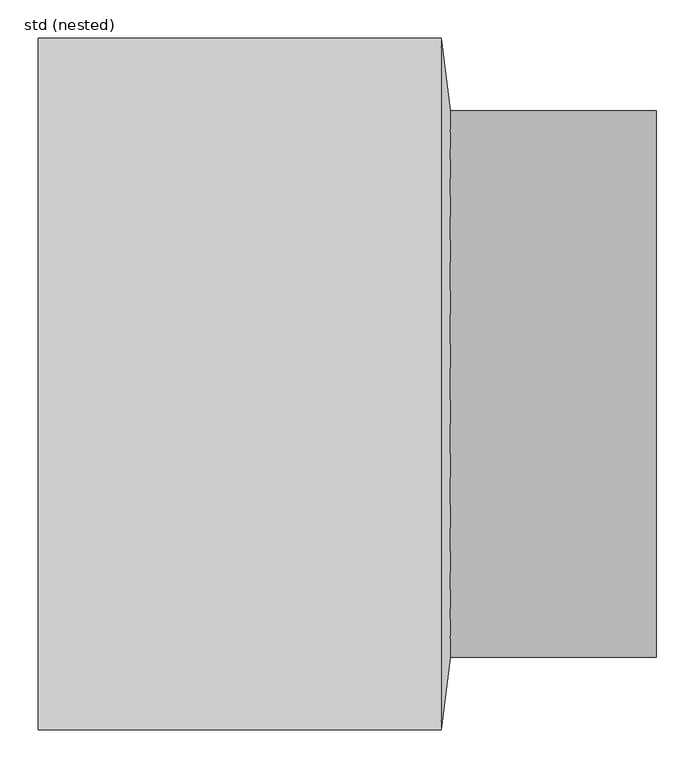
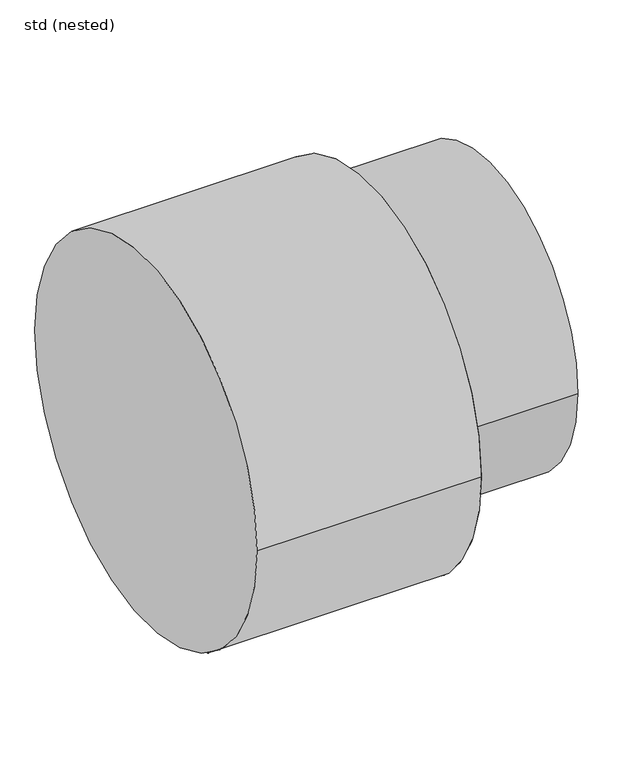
"""IFC4 building model written with IfcOpenShell, lengths in millimetres: pipe fitting geometry, NLRS_52_PIF_WPB_Ultra Kyma verloop MV SH_Dyka : std (nested)."""

import ifcopenshell
import ifcopenshell.guid

model = None  # the IFC model being written
_history = None  # IfcOwnerHistory: only IFC2X3 demands one
_inside = {}  # id of a spatial element -> (the spatial element, [elements in it])
_under = {}  # id of a project, library or spatial element -> (it, [spatial elements below it])
_declared = {}  # id of a project -> (the project, [libraries it declares])
_typed = {}  # id of a type object -> (the type object, [elements of that type])
_made_of = {}  # id of a material, layer set ... -> (it, [elements and type objects made of it])


def new_model(schema):
    """Start an empty IFC model of exactly this schema.

    Asked for "IFC4X3", IfcOpenShell would pick the latest addendum, in which some entities
    have other attributes; the version numbers below select the first issue.
    IFC2X3 requires an IfcOwnerHistory on every rooted entity: one is made here for all.
    """
    global model, _history
    if schema == "IFC4X3":
        model = ifcopenshell.file(schema_version=(4, 3, 0, 0))
    else:
        model = ifcopenshell.file(schema=schema)
    _inside.clear()
    _under.clear()
    _declared.clear()
    _typed.clear()
    _made_of.clear()
    _history = None
    if model.schema == "IFC2X3":
        org = make("IfcOrganization", Name="unknown")
        user = make(
            "IfcPersonAndOrganization",
            ThePerson=make("IfcPerson", FamilyName="unknown"),
            TheOrganization=org,
        )
        app = make(
            "IfcApplication",
            ApplicationDeveloper=org,
            Version="unknown",
            ApplicationFullName="unknown",
            ApplicationIdentifier="unknown",
        )
        _history = make(
            "IfcOwnerHistory",
            OwningUser=user,
            OwningApplication=app,
            ChangeAction="ADDED",
            CreationDate=0,
        )
    return model


def make(cls, **values):
    """One entity of the class cls with the attributes given. An attribute that is None is left unset."""
    return model.create_entity(
        cls, **{name: value for name, value in values.items() if value is not None}
    )


def rooted(cls, **values):
    """An entity with a GlobalId (a new one), such as an element, a storey or a relation."""
    return make(cls, GlobalId=ifcopenshell.guid.new(), OwnerHistory=_history, **values)


def si_unit(unit_type, name, prefix=None):
    """IfcSIUnit, for example si_unit("LENGTHUNIT", "METRE", prefix="MILLI")."""
    return make("IfcSIUnit", UnitType=unit_type, Prefix=prefix, Name=name)


def assignment(units):
    """IfcUnitAssignment: the units of a project."""
    return None if units is None else make("IfcUnitAssignment", Units=units)


def point(xyz):
    """IfcCartesianPoint."""
    return None if xyz is None else make("IfcCartesianPoint", Coordinates=xyz)


def direction(xyz):
    """IfcDirection."""
    return None if xyz is None else make("IfcDirection", DirectionRatios=xyz)


def frame(location, z_axis=None, x_axis=None):
    """IfcAxis2Placement3D, a coordinate frame: its origin and axes. An axis left out is left unset."""
    return make(
        "IfcAxis2Placement3D",
        Location=point(location),
        Axis=direction(z_axis),
        RefDirection=direction(x_axis),
    )


def frame_2d(location, x_axis=None):
    """IfcAxis2Placement2D, a coordinate frame in the plane: its origin and x axis."""
    return make(
        "IfcAxis2Placement2D", Location=point(location), RefDirection=direction(x_axis)
    )


def origin():
    """The frame at (0, 0, 0) with its axes left unset."""
    return frame((0.0, 0.0, 0.0))


def origin_2d():
    """The frame at (0, 0) in the plane with its x axis left unset."""
    return frame_2d((0.0, 0.0))


def place(relative_to, where):
    """IfcLocalPlacement: puts the frame where relative to a parent placement (None: the world)."""
    return make(
        "IfcLocalPlacement", PlacementRelTo=relative_to, RelativePlacement=where
    )


def context(
    kind, dimensions, precision=None, world=None, true_north=None, identifier=None
):
    """IfcGeometricRepresentationContext, for example the 3D "Model" context."""
    return make(
        "IfcGeometricRepresentationContext",
        ContextIdentifier=identifier,
        ContextType=kind,
        CoordinateSpaceDimension=dimensions,
        Precision=precision,
        WorldCoordinateSystem=world,
        TrueNorth=true_north,
    )


def project(units=None, contexts=None):
    """IfcProject with its units and contexts."""
    return rooted(
        "IfcProject",
        Name="project",
        RepresentationContexts=contexts,
        UnitsInContext=assignment(units),
    )


def spatial(cls, under=None, at=None, **own):
    """A site, building, storey or space (cls), placed at a placement, below another one or the project."""
    s = rooted(cls, ObjectPlacement=at, **own)
    if under is not None:
        _under.setdefault(under.id(), (under, []))[1].append(s)
    return s


def circle_curve(where, radius):
    """IfcCircle in the frame where."""
    return make("IfcCircle", Position=where, Radius=radius)


def trimmed(basis, trim1, trim2, sense, master):
    """IfcTrimmedCurve: the piece of a basis curve between two trims."""
    return make(
        "IfcTrimmedCurve",
        BasisCurve=basis,
        Trim1=trim1,
        Trim2=trim2,
        SenseAgreement=sense,
        MasterRepresentation=master,
    )


def segment(curve, same_sense, transition):
    """IfcCompositeCurveSegment."""
    return make(
        "IfcCompositeCurveSegment",
        Transition=transition,
        SameSense=same_sense,
        ParentCurve=curve,
    )


def composite_curve(segments, self_intersect=None):
    """IfcCompositeCurve: segments joined end to end."""
    return make("IfcCompositeCurve", Segments=segments, SelfIntersect=self_intersect)


def outline(outer, holes=None, kind="AREA"):
    """IfcArbitraryClosedProfileDef: a profile drawn as a closed curve; with holes, ...WithVoids."""
    if holes is None:
        return make("IfcArbitraryClosedProfileDef", ProfileType=kind, OuterCurve=outer)
    return make(
        "IfcArbitraryProfileDefWithVoids",
        ProfileType=kind,
        OuterCurve=outer,
        InnerCurves=holes,
    )


def extrude(swept, where, along, depth):
    """IfcExtrudedAreaSolid: the profile swept, set in the frame where, extruded along a direction by depth."""
    return make(
        "IfcExtrudedAreaSolid",
        SweptArea=swept,
        Position=where,
        ExtrudedDirection=direction(along),
        Depth=depth,
    )


def shape(context_of_items, identifier, shape_type, items):
    """IfcShapeRepresentation: the items that make up one representation, for example the "Body"."""
    return make(
        "IfcShapeRepresentation",
        ContextOfItems=context_of_items,
        RepresentationIdentifier=identifier,
        RepresentationType=shape_type,
        Items=items,
    )


def source(mapping_origin, context_of_items, identifier, shape_type, items):
    """IfcRepresentationMap: a shape defined once, which mapped items show again and again."""
    return make(
        "IfcRepresentationMap",
        MappingOrigin=mapping_origin,
        MappedRepresentation=shape(context_of_items, identifier, shape_type, items),
    )


def transform(
    local_origin,
    x_axis=None,
    y_axis=None,
    z_axis=None,
    scale=None,
    scale2=None,
    scale3=None,
    uniform=True,
):
    """IfcCartesianTransformationOperator3D, or its non-uniform kind. x_axis, y_axis, z_axis: its Axis1, 2, 3."""
    if uniform:
        return make(
            "IfcCartesianTransformationOperator3D",
            Axis1=direction(x_axis),
            Axis2=direction(y_axis),
            LocalOrigin=point(local_origin),
            Scale=scale,
            Axis3=direction(z_axis),
        )
    return make(
        "IfcCartesianTransformationOperator3DnonUniform",
        Axis1=direction(x_axis),
        Axis2=direction(y_axis),
        LocalOrigin=point(local_origin),
        Scale=scale,
        Axis3=direction(z_axis),
        Scale2=scale2,
        Scale3=scale3,
    )


def mapped(mapping_source, mapping_target):
    """IfcMappedItem: shows the shape of a source again, moved by a transform."""
    return make(
        "IfcMappedItem", MappingSource=mapping_source, MappingTarget=mapping_target
    )


def made_of(thing, what):
    """Note that an element or type object is made of a material, layer set ...; save() writes the relation."""
    if what is not None:
        _made_of.setdefault(what.id(), (what, []))[1].append(thing)
    return thing


def element(
    cls,
    number,
    at=None,
    inside=None,
    cuts=None,
    type_object=None,
    material=None,
    context=None,
    identifier="Body",
    shape_type=None,
    held_by="IfcProductDefinitionShape",
    body=None,
    shapes=None,
    **own,
):
    """One element of the class cls, such as IfcWall. Its Tag is "e" and its number.

    at: its placement. inside: the storey or other place that contains it. cuts: it is an
    opening in that element (IfcRelVoidsElement). A single representation is given by context,
    identifier, shape_type and body (its items); several are given by shapes. held_by: the class
    of the entity that holds the representations. save() writes the other relations.
    """
    e = rooted(cls, Tag="e%d" % number, ObjectPlacement=at, **own)
    if body is not None:
        shapes = [shape(context, identifier, shape_type, body)]
    if shapes is not None:
        e.Representation = make(held_by, Representations=shapes)
    if inside is not None:
        _inside.setdefault(inside.id(), (inside, []))[1].append(e)
    if cuts is not None:
        rooted(
            "IfcRelVoidsElement", RelatingBuildingElement=cuts, RelatedOpeningElement=e
        )
    if type_object is not None:
        _typed.setdefault(type_object.id(), (type_object, []))[1].append(e)
    return made_of(e, material)


def aggregate(whole, parts):
    """IfcRelAggregates: a whole, such as a stair, and the parts it consists of."""
    return rooted("IfcRelAggregates", RelatingObject=whole, RelatedObjects=parts)


def save(model, path):
    """Write the relations noted so far, then the file.

    IfcRelAggregates (storeys below a building ...), IfcRelContainedInSpatialStructure (elements
    in a storey), IfcRelDefinesByType, IfcRelAssociatesMaterial and IfcRelDeclares: one each for
    every whole, place, type object, material and project.
    """
    for whole, parts in _under.values():
        aggregate(whole, parts)
    for where, things in _inside.values():
        rooted(
            "IfcRelContainedInSpatialStructure",
            RelatedElements=things,
            RelatingStructure=where,
        )
    for kind, things in _typed.values():
        rooted("IfcRelDefinesByType", RelatedObjects=things, RelatingType=kind)
    for what, things in _made_of.values():
        rooted("IfcRelAssociatesMaterial", RelatedObjects=things, RelatingMaterial=what)
    for by, libraries in _declared.values():
        rooted("IfcRelDeclares", RelatingContext=by, RelatedDefinitions=libraries)
    model.write(path)


def plane_surface(at):
    """IfcPlane: the flat surface through the origin of the frame at, square to its z axis."""
    return make("IfcPlane", Position=at)


def spline_surface(u_degree, v_degree, points, u_multiplicities, v_multiplicities, u_knots, v_knots, weights=None):
    """IfcBSplineSurfaceWithKnots; with weights, IfcRationalBSplineSurfaceWithKnots. points: one row for each step in u."""
    own = dict(
        UDegree=u_degree,
        VDegree=v_degree,
        ControlPointsList=[[point(p) for p in row] for row in points],
        SurfaceForm="UNSPECIFIED",
        UClosed=False,
        VClosed=False,
        SelfIntersect=False,
        UMultiplicities=u_multiplicities,
        VMultiplicities=v_multiplicities,
        UKnots=u_knots,
        VKnots=v_knots,
        KnotSpec="UNSPECIFIED",
    )
    if weights is None:
        return make("IfcBSplineSurfaceWithKnots", **own)
    return make("IfcRationalBSplineSurfaceWithKnots", WeightsData=weights, **own)


def advanced_brep(points, edges, surfaces, faces):
    """IfcAdvancedBrep: a solid bounded by faces that lie on surfaces and meet in shared edges.

    An edge is (start, end): straight between two places in points (the first is 0);
    or (start, end, curve); or (start, end, curve, False) where it runs against its curve.
    A face is (place in surfaces, loops), or (place, loops, False) where it looks against
    its surface's normal. A loop lists edges by number (the first is 1), with a minus sign
    where the edge is run from its end to its start. The first loop is the outer one.
    """
    corners = [point(p) for p in points]
    vertices = [make("IfcVertexPoint", VertexGeometry=c) for c in corners]
    made = []
    for start, end, *more in edges:
        made.append(
            make(
                "IfcEdgeCurve",
                EdgeStart=vertices[start],
                EdgeEnd=vertices[end],
                EdgeGeometry=more[0] if more else make("IfcPolyline", Points=[corners[start], corners[end]]),
                SameSense=more[1] if len(more) > 1 else True,
            )
        )
    hull = []
    for where, loops, *sense in faces:
        bounds = []
        for j, loop in enumerate(loops):
            ring = [make("IfcOrientedEdge", EdgeElement=made[abs(k) - 1], Orientation=k > 0) for k in loop]
            bounds.append(
                make(
                    "IfcFaceOuterBound" if j == 0 else "IfcFaceBound",
                    Bound=make("IfcEdgeLoop", EdgeList=ring),
                    Orientation=True,
                )
            )
        hull.append(make("IfcAdvancedFace", Bounds=bounds, FaceSurface=surfaces[where], SameSense=sense[0] if sense else True))
    return make("IfcAdvancedBrep", Outer=make("IfcClosedShell", CfsFaces=hull))


def std_nested_f37f1266(model_context):
    return source(origin(), model_context, "Body", "SolidModel", [
        extrude(outline(composite_curve([segment(trimmed(circle_curve(frame_2d((0.0, 50.0)), 358.0), [point((-358.0, 50.0))], [point((358.0, 50.0))], False, "CARTESIAN"), True, "CONTINUOUS"), segment(trimmed(circle_curve(frame_2d((0.0, 50.0)), 358.0), [point((358.0, 50.0))], [point((-358.0, 50.0))], False, "CARTESIAN"), True, "CONTINUOUS")], self_intersect=False), holes=[composite_curve([segment(trimmed(circle_curve(frame_2d((0.0, 50.0)), 340.0), [point((340.0, 50.0))], [point((-340.0, 50.0))], True, "CARTESIAN"), True, "CONTINUOUS"), segment(trimmed(circle_curve(frame_2d((0.0, 50.0)), 340.0), [point((-340.0, 50.0))], [point((340.0, 50.0))], True, "CARTESIAN"), True, "CONTINUOUS")], self_intersect=False)]), frame((540.0, 0.0, 0.0), z_axis=(1.0, 0.0, 0.0), x_axis=(0.0, 1.0, 0.0)), (0.0, 0.0, 1.0), 270.0),
        extrude(outline(composite_curve([segment(trimmed(circle_curve(origin_2d(), 453.0), [point((-453.0, 0.0))], [point((453.0, 0.0))], False, "CARTESIAN"), True, "CONTINUOUS"), segment(trimmed(circle_curve(origin_2d(), 453.0), [point((453.0, 0.0))], [point((-453.0, 0.0))], False, "CARTESIAN"), True, "CONTINUOUS")], self_intersect=False)), frame((0.0, 0.0, 0.0), z_axis=(1.0, 0.0, 0.0), x_axis=(0.0, 1.0, 0.0)), (0.0, 0.0, 1.0), 528.0),
        advanced_brep(
        [(540.0, -358.0, 50.0), (540.0, 358.0, 50.0), (528.0, -453.0, 0.0), (528.0, 453.0, 0.0)],
        [
            (0, 1, circle_curve(frame((540.0, 0.0, 50.0), z_axis=(1.0, 0.0, 0.0), x_axis=(0.0, 1.0, 0.0)), 358.0)),
            (1, 0, circle_curve(frame((540.0, 0.0, 50.0), z_axis=(1.0, 0.0, 0.0), x_axis=(0.0, 1.0, 0.0)), 358.0)),
            (2, 3, circle_curve(frame((528.0, 0.0, 0.0), z_axis=(-1.0, 0.0, 0.0), x_axis=(0.0, 1.0, 0.0)), 453.0)),
            (3, 2, circle_curve(frame((528.0, 0.0, 0.0), z_axis=(-1.0, 0.0, 0.0), x_axis=(0.0, 1.0, 0.0)), 453.0)),
            (2, 0),
            (1, 3),
        ],
        [
            plane_surface(frame((540.0, 0.0, 50.0), z_axis=(1.0, 0.0, 0.0), x_axis=(0.0, 0.0, -1.0))),
            plane_surface(frame((528.0, 0.0, 0.0), z_axis=(-1.0, 0.0, 0.0), x_axis=(0.0, 0.0, -1.0))),
            spline_surface(2, 1, [[(528.0, 453.0, 0.0), (540.0, 358.0, 50.0)], [(528.0, 453.0, 453.0), (540.0, 358.0, 408.0)], [(528.0, 0.0, 453.0), (540.0, 0.0, 408.0)], [(528.0, -453.0, 453.0), (540.0, -358.0, 408.0)], [(528.0, -453.0, 0.0), (540.0, -358.0, 50.0)]], [3, 2, 3], [2, 2], [0.0, 1.0, 2.0], [0.0, 1.0], weights=[[1.0, 1.0], [0.7071067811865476, 0.7071067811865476], [1.0, 1.0], [0.7071067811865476, 0.7071067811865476], [1.0, 1.0]]),
            spline_surface(2, 1, [[(528.0, -453.0, 0.0), (540.0, -358.0, 50.0)], [(528.0, -453.0, -453.0), (540.0, -358.0, -308.0)], [(528.0, 0.0, -453.0), (540.0, 0.0, -308.0)], [(528.0, 453.0, -453.0), (540.0, 358.0, -308.0)], [(528.0, 453.0, 0.0), (540.0, 358.0, 50.0)]], [3, 2, 3], [2, 2], [0.0, 1.0, 2.0], [0.0, 1.0], weights=[[1.0, 1.0], [0.7071067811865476, 0.7071067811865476], [1.0, 1.0], [0.7071067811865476, 0.7071067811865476], [1.0, 1.0]]),
        ],
        [
            (0, [[1, 2]]),
            (1, [[3, 4]]),
            (2, [[-3, 5, -2, 6]]),
            (3, [[-4, -6, -1, -5]]),
        ],
    ),
    ])


if __name__ == "__main__":
    model = new_model("IFC4")
    model_context = context("Model", 3, world=origin())
    ifc_project = project(units=[si_unit("LENGTHUNIT", "METRE", prefix="MILLI")], contexts=[model_context])
    site = spatial("IfcSite", under=ifc_project)
    building = spatial("IfcBuilding", under=site)
    placement = place(None, origin())
    std_nested_shape = std_nested_f37f1266(model_context)
    element("IfcPipeFitting", 1, ObjectType="NLRS_52_PIF_WPB_Ultra Kyma verloop MV SH_Dyka : std (nested)", at=placement, inside=building, context=model_context, shape_type="MappedRepresentation", body=[
        mapped(std_nested_shape, transform((0.0, 0.0, 0.0), x_axis=(1.0, 0.0, 0.0), y_axis=(0.0, 1.0, 0.0), z_axis=(0.0, 0.0, 1.0))),
    ])
    save(model, "model.ifc")
